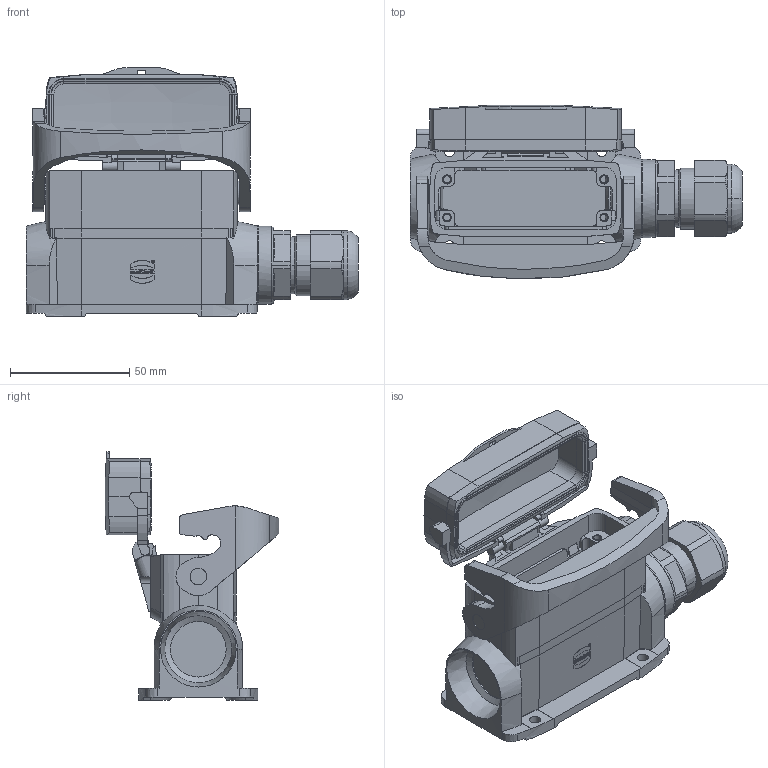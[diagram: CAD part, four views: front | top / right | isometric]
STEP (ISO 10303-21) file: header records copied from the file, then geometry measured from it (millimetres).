
FILE_DESCRIPTION(/* description */ (''),/* implementation_level */ '2;1');
FILE_NAME(/* name */ '100673955ugm000_d.stp',/* time_stamp */ '2022-03-12T01:22:52+01:00',/* author */ (''),/* organization */ (''),/* preprocessor_version */ 'ST-DEVELOPER v16.7',/* originating_system */ 'SIEMENS PLM Software NX 1911',/* authorisation */ '');
FILE_SCHEMA (('AUTOMOTIVE_DESIGN { 1 0 10303 214 3 1 1 1 }'));
Length unit declared in the file: millimetre
Products named in the file (1): 100673955ugm000_d
Bounding box: 139.45 x 72.92 x 104.5 mm (x, y, z)
Volume: 123528.6 mm3; surface area: 69879.6 mm2
Topology: 3 solids, 3 shells, 901 faces, 2691 edges, 1898 vertices
Faces by surface type: plane 564, cylinder 221, cone 56, bspline 27, torus 22, extrusion 11
Full cylindrical faces by diameter (mm): 0.671 x1, 0.984 x1, 3 x4, 3.5 x2, 4 x2, 4.6 x4, 7 x4, 19.5 x1, 23.128 x1, 23.37 x1, 32.956 x1
Entity records: 38410 total; most frequent: CARTESIAN_POINT 8163, ORIENTED_EDGE 5124, DIRECTION 4577, EDGE_CURVE 2562, VERTEX_POINT 1718, VECTOR 1647, LINE 1636, AXIS2_PLACEMENT_3D 1465
